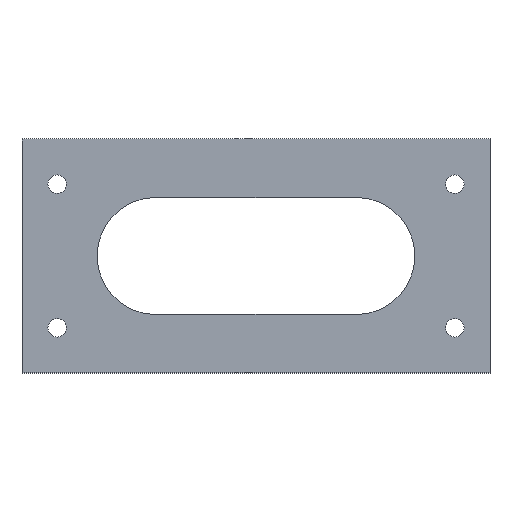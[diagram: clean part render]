
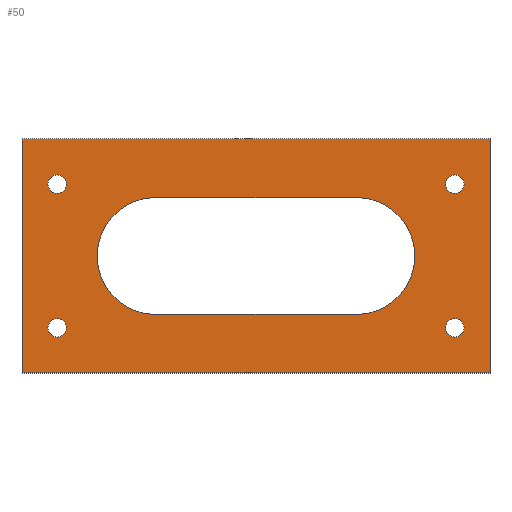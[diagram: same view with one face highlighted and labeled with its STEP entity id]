
A CAD part, top view. The second image highlights one B-rep face of the part: STEP entity #50.
In plain terms, the highlighted planar face has unit normal (0, 0, 1).
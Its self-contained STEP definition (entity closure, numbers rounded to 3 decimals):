
#50=ADVANCED_FACE('',(#109,#110,#111,#112,#113,#114),#115,.T.);
#109=FACE_BOUND('',#178,.T.);
#110=FACE_BOUND('',#179,.T.);
#111=FACE_BOUND('',#180,.T.);
#112=FACE_BOUND('',#181,.T.);
#113=FACE_BOUND('',#182,.T.);
#114=FACE_OUTER_BOUND('',#183,.T.);
#115=PLANE('',#184);
#178=EDGE_LOOP('',(#271,#272,#273,#274,#275,#276));
#179=EDGE_LOOP('',(#277));
#180=EDGE_LOOP('',(#278));
#181=EDGE_LOOP('',(#279));
#182=EDGE_LOOP('',(#280));
#183=EDGE_LOOP('',(#281,#282,#283,#284));
#184=AXIS2_PLACEMENT_3D('',#285,#286,#287);
#271=ORIENTED_EDGE('',*,*,#388,.F.);
#272=ORIENTED_EDGE('',*,*,#389,.F.);
#273=ORIENTED_EDGE('',*,*,#390,.F.);
#274=ORIENTED_EDGE('',*,*,#391,.F.);
#275=ORIENTED_EDGE('',*,*,#392,.F.);
#276=ORIENTED_EDGE('',*,*,#393,.F.);
#277=ORIENTED_EDGE('',*,*,#394,.F.);
#278=ORIENTED_EDGE('',*,*,#395,.F.);
#279=ORIENTED_EDGE('',*,*,#396,.T.);
#280=ORIENTED_EDGE('',*,*,#397,.T.);
#281=ORIENTED_EDGE('',*,*,#383,.T.);
#282=ORIENTED_EDGE('',*,*,#386,.T.);
#283=ORIENTED_EDGE('',*,*,#380,.T.);
#284=ORIENTED_EDGE('',*,*,#361,.T.);
#285=CARTESIAN_POINT('',(-70.0,-35.0,0.0));
#286=DIRECTION('',(0.0,0.0,1.0));
#287=DIRECTION('',(0.0,-1.0,0.0));
#361=EDGE_CURVE('',#415,#416,#417,.T.);
#380=EDGE_CURVE('',#450,#415,#451,.T.);
#383=EDGE_CURVE('',#416,#454,#455,.T.);
#386=EDGE_CURVE('',#454,#450,#458,.T.);
#388=EDGE_CURVE('',#460,#461,#462,.T.);
#389=EDGE_CURVE('',#463,#460,#464,.T.);
#390=EDGE_CURVE('',#465,#463,#466,.T.);
#391=EDGE_CURVE('',#467,#465,#468,.T.);
#392=EDGE_CURVE('',#469,#467,#470,.T.);
#393=EDGE_CURVE('',#461,#469,#471,.T.);
#394=EDGE_CURVE('',#472,#472,#473,.T.);
#395=EDGE_CURVE('',#474,#474,#475,.T.);
#396=EDGE_CURVE('',#476,#476,#477,.T.);
#397=EDGE_CURVE('',#478,#478,#479,.T.);
#415=VERTEX_POINT('',#497);
#416=VERTEX_POINT('',#498);
#417=LINE('',#499,#500);
#450=VERTEX_POINT('',#541);
#451=LINE('',#542,#543);
#454=VERTEX_POINT('',#547);
#455=LINE('',#548,#549);
#458=LINE('',#553,#554);
#460=VERTEX_POINT('',#556);
#461=VERTEX_POINT('',#557);
#462=CIRCLE('',#558,17.5);
#463=VERTEX_POINT('',#559);
#464=CIRCLE('',#560,17.5);
#465=VERTEX_POINT('',#561);
#466=LINE('',#562,#563);
#467=VERTEX_POINT('',#564);
#468=CIRCLE('',#565,17.5);
#469=VERTEX_POINT('',#566);
#470=CIRCLE('',#567,17.5);
#471=LINE('',#568,#569);
#472=VERTEX_POINT('',#570);
#473=CIRCLE('',#571,2.75);
#474=VERTEX_POINT('',#572);
#475=CIRCLE('',#573,2.75);
#476=VERTEX_POINT('',#574);
#477=CIRCLE('',#575,2.75);
#478=VERTEX_POINT('',#576);
#479=CIRCLE('',#577,2.75);
#497=CARTESIAN_POINT('',(70.0,35.0,0.0));
#498=CARTESIAN_POINT('',(-70.0,35.0,0.0));
#499=CARTESIAN_POINT('',(70.0,35.0,0.0));
#500=VECTOR('',#600,1.0);
#541=CARTESIAN_POINT('',(70.0,-35.0,0.0));
#542=CARTESIAN_POINT('',(70.0,-35.0,0.0));
#543=VECTOR('',#633,1.0);
#547=CARTESIAN_POINT('',(-70.0,-35.0,0.0));
#548=CARTESIAN_POINT('',(-70.0,35.0,0.0));
#549=VECTOR('',#635,1.0);
#553=CARTESIAN_POINT('',(-70.0,-35.0,0.0));
#554=VECTOR('',#637,1.0);
#556=CARTESIAN_POINT('',(-47.5,0.,0.0));
#557=CARTESIAN_POINT('',(-30.0,-17.5,0.0));
#558=AXIS2_PLACEMENT_3D('',#638,#639,#640);
#559=CARTESIAN_POINT('',(-30.0,17.5,0.0));
#560=AXIS2_PLACEMENT_3D('',#641,#642,#643);
#561=CARTESIAN_POINT('',(30.0,17.5,0.0));
#562=CARTESIAN_POINT('',(30.0,17.5,0.0));
#563=VECTOR('',#644,1.0);
#564=CARTESIAN_POINT('',(47.5,0.,0.0));
#565=AXIS2_PLACEMENT_3D('',#645,#646,#647);
#566=CARTESIAN_POINT('',(30.0,-17.5,0.0));
#567=AXIS2_PLACEMENT_3D('',#648,#649,#650);
#568=CARTESIAN_POINT('',(-30.0,-17.5,0.0));
#569=VECTOR('',#651,1.0);
#570=CARTESIAN_POINT('',(56.75,21.5,0.0));
#571=AXIS2_PLACEMENT_3D('',#652,#653,#654);
#572=CARTESIAN_POINT('',(-56.75,-21.5,0.0));
#573=AXIS2_PLACEMENT_3D('',#655,#656,#657);
#574=CARTESIAN_POINT('',(56.75,-21.5,0.0));
#575=AXIS2_PLACEMENT_3D('',#658,#659,#660);
#576=CARTESIAN_POINT('',(-56.75,21.5,0.0));
#577=AXIS2_PLACEMENT_3D('',#661,#662,#663);
#600=DIRECTION('',(-1.0,0.0,0.0));
#633=DIRECTION('',(0.0,1.0,0.0));
#635=DIRECTION('',(0.0,-1.0,0.0));
#637=DIRECTION('',(1.0,0.0,0.0));
#638=CARTESIAN_POINT('',(-30.0,0.,0.0));
#639=DIRECTION('',(0.0,0.0,1.0));
#640=DIRECTION('',(-1.0,0.,0.0));
#641=CARTESIAN_POINT('',(-30.0,0.,0.0));
#642=DIRECTION('',(0.0,-0.0,1.0));
#643=DIRECTION('',(0.,1.0,0.0));
#644=DIRECTION('',(-1.0,0.0,0.0));
#645=CARTESIAN_POINT('',(30.0,0.,0.0));
#646=DIRECTION('',(0.0,0.0,1.0));
#647=DIRECTION('',(1.0,0.,0.0));
#648=CARTESIAN_POINT('',(30.0,0.,0.0));
#649=DIRECTION('',(0.0,0.0,1.0));
#650=DIRECTION('',(0.,-1.0,0.0));
#651=DIRECTION('',(1.0,0.0,0.0));
#652=CARTESIAN_POINT('',(59.5,21.5,0.0));
#653=DIRECTION('',(0.0,0.0,1.0));
#654=DIRECTION('',(-1.0,0.0,0.0));
#655=CARTESIAN_POINT('',(-59.5,-21.5,0.0));
#656=DIRECTION('',(0.0,0.0,1.0));
#657=DIRECTION('',(1.0,0.0,0.0));
#658=CARTESIAN_POINT('',(59.5,-21.5,0.0));
#659=DIRECTION('',(0.0,0.0,-1.0));
#660=DIRECTION('',(-1.0,0.0,0.0));
#661=CARTESIAN_POINT('',(-59.5,21.5,0.0));
#662=DIRECTION('',(0.0,0.0,-1.0));
#663=DIRECTION('',(1.0,0.0,0.0));
